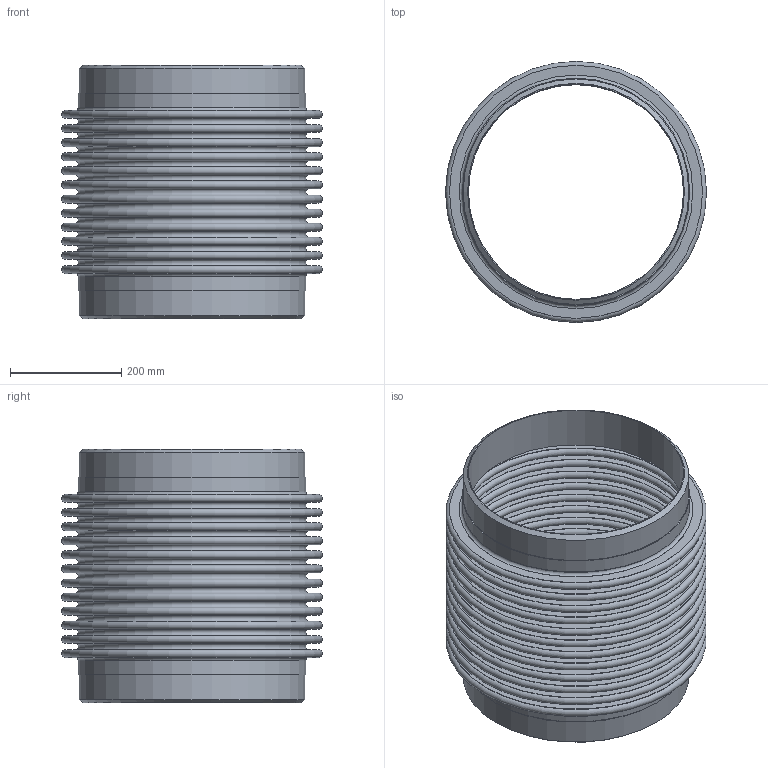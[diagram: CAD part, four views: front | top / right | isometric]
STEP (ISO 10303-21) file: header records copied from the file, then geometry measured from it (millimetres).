
FILE_DESCRIPTION(/* description */ ('EXPANSION JOINT,SINGLE, WELD ENDS,4 INCH NOMINAL'),/* implementation_level */ '2;1');
FILE_NAME(/* name */ 'ASSEMBLY US-16-12-150L.stp',/* time_stamp */ '2026-07-30T07:41:42-05:00',/* author */ ('jorgef'),/* organization */ (''),/* preprocessor_version */ 'ST-DEVELOPER v20.1',/* originating_system */ 'Autodesk Inventor 2026',/* authorisation */ '');
FILE_SCHEMA (('AUTOMOTIVE_DESIGN { 1 0 10303 214 3 1 1 }'));
Length unit declared in the file: inch
Products named in the file (3): ASSEMBLY  US-16-12-150L; STOCK BELLOW - US-16-12-150L; PIPE- US-16-12-150L
Assembly tree (3 placements, depth 2):
  ASSEMBLY  US-16-12-150L
    STOCK BELLOW - US-16-12-150L
    PIPE- US-16-12-150L  x2
Bounding box: 469.9 x 469.9 x 457.2 mm (x, y, z)
Volume: 3734930.1 mm3; surface area: 3035115.7 mm2
Topology: 5 solids, 5 shells, 118 faces, 180 edges, 121 vertices
Faces by surface type: plane 58, torus 50, cylinder 8, cone 2
Full cylindrical faces by diameter (mm): 387.35 x2, 406.4 x4, 409.448 x2
Entity records: 2769 total; most frequent: DIRECTION 573, CARTESIAN_POINT 405, ORIENTED_EDGE 342, AXIS2_PLACEMENT_3D 283, EDGE_CURVE 171, EDGE_LOOP 169, CIRCLE 164, VERTEX_POINT 114
